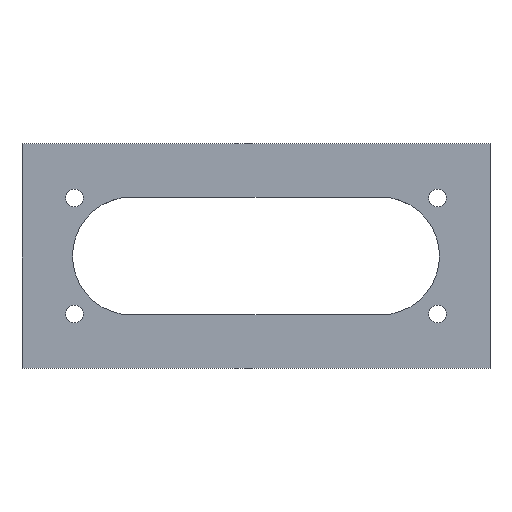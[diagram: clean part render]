
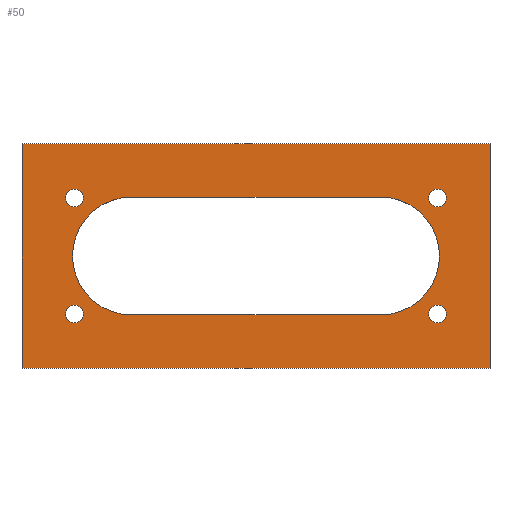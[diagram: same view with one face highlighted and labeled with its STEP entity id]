
A CAD part, top view. The second image highlights one B-rep face of the part: STEP entity #50.
In plain terms, the highlighted planar face has unit normal (0, 0, 1).
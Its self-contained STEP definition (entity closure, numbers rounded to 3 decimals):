
#50=ADVANCED_FACE('',(#109,#110,#111,#112,#113,#114),#115,.T.);
#109=FACE_BOUND('',#178,.T.);
#110=FACE_BOUND('',#179,.T.);
#111=FACE_BOUND('',#180,.T.);
#112=FACE_BOUND('',#181,.T.);
#113=FACE_BOUND('',#182,.T.);
#114=FACE_OUTER_BOUND('',#183,.T.);
#115=PLANE('',#184);
#178=EDGE_LOOP('',(#271));
#179=EDGE_LOOP('',(#272));
#180=EDGE_LOOP('',(#273));
#181=EDGE_LOOP('',(#274));
#182=EDGE_LOOP('',(#275,#276,#277,#278,#279,#280));
#183=EDGE_LOOP('',(#281,#282,#283,#284));
#184=AXIS2_PLACEMENT_3D('',#285,#286,#287);
#271=ORIENTED_EDGE('',*,*,#388,.F.);
#272=ORIENTED_EDGE('',*,*,#389,.F.);
#273=ORIENTED_EDGE('',*,*,#390,.T.);
#274=ORIENTED_EDGE('',*,*,#391,.T.);
#275=ORIENTED_EDGE('',*,*,#392,.F.);
#276=ORIENTED_EDGE('',*,*,#393,.F.);
#277=ORIENTED_EDGE('',*,*,#394,.F.);
#278=ORIENTED_EDGE('',*,*,#395,.F.);
#279=ORIENTED_EDGE('',*,*,#396,.F.);
#280=ORIENTED_EDGE('',*,*,#397,.F.);
#281=ORIENTED_EDGE('',*,*,#383,.T.);
#282=ORIENTED_EDGE('',*,*,#386,.T.);
#283=ORIENTED_EDGE('',*,*,#380,.T.);
#284=ORIENTED_EDGE('',*,*,#361,.T.);
#285=CARTESIAN_POINT('',(-125.0,-60.0,0.0));
#286=DIRECTION('',(0.0,0.0,1.0));
#287=DIRECTION('',(0.0,-1.0,0.0));
#361=EDGE_CURVE('',#415,#416,#417,.T.);
#380=EDGE_CURVE('',#450,#415,#451,.T.);
#383=EDGE_CURVE('',#416,#454,#455,.T.);
#386=EDGE_CURVE('',#454,#450,#458,.T.);
#388=EDGE_CURVE('',#460,#460,#461,.T.);
#389=EDGE_CURVE('',#462,#462,#463,.T.);
#390=EDGE_CURVE('',#464,#464,#465,.T.);
#391=EDGE_CURVE('',#466,#466,#467,.T.);
#392=EDGE_CURVE('',#468,#469,#470,.T.);
#393=EDGE_CURVE('',#471,#468,#472,.T.);
#394=EDGE_CURVE('',#473,#471,#474,.T.);
#395=EDGE_CURVE('',#475,#473,#476,.T.);
#396=EDGE_CURVE('',#477,#475,#478,.T.);
#397=EDGE_CURVE('',#469,#477,#479,.T.);
#415=VERTEX_POINT('',#497);
#416=VERTEX_POINT('',#498);
#417=LINE('',#499,#500);
#450=VERTEX_POINT('',#541);
#451=LINE('',#542,#543);
#454=VERTEX_POINT('',#547);
#455=LINE('',#548,#549);
#458=LINE('',#553,#554);
#460=VERTEX_POINT('',#556);
#461=CIRCLE('',#557,4.75);
#462=VERTEX_POINT('',#558);
#463=CIRCLE('',#559,4.75);
#464=VERTEX_POINT('',#560);
#465=CIRCLE('',#561,4.75);
#466=VERTEX_POINT('',#562);
#467=CIRCLE('',#563,4.75);
#468=VERTEX_POINT('',#564);
#469=VERTEX_POINT('',#565);
#470=CIRCLE('',#566,31.5);
#471=VERTEX_POINT('',#567);
#472=CIRCLE('',#568,31.5);
#473=VERTEX_POINT('',#569);
#474=LINE('',#570,#571);
#475=VERTEX_POINT('',#572);
#476=CIRCLE('',#573,31.5);
#477=VERTEX_POINT('',#574);
#478=CIRCLE('',#575,31.5);
#479=LINE('',#576,#577);
#497=CARTESIAN_POINT('',(125.0,60.0,0.0));
#498=CARTESIAN_POINT('',(-125.0,60.0,0.0));
#499=CARTESIAN_POINT('',(125.0,60.0,0.0));
#500=VECTOR('',#600,1.0);
#541=CARTESIAN_POINT('',(125.0,-60.0,0.0));
#542=CARTESIAN_POINT('',(125.0,-60.0,0.0));
#543=VECTOR('',#633,1.0);
#547=CARTESIAN_POINT('',(-125.0,-60.0,0.0));
#548=CARTESIAN_POINT('',(-125.0,60.0,0.0));
#549=VECTOR('',#635,1.0);
#553=CARTESIAN_POINT('',(-125.0,-60.0,0.0));
#554=VECTOR('',#637,1.0);
#556=CARTESIAN_POINT('',(92.25,31.0,0.0));
#557=AXIS2_PLACEMENT_3D('',#638,#639,#640);
#558=CARTESIAN_POINT('',(-92.25,-31.0,0.0));
#559=AXIS2_PLACEMENT_3D('',#641,#642,#643);
#560=CARTESIAN_POINT('',(92.25,-31.0,0.0));
#561=AXIS2_PLACEMENT_3D('',#644,#645,#646);
#562=CARTESIAN_POINT('',(-92.25,31.0,0.0));
#563=AXIS2_PLACEMENT_3D('',#647,#648,#649);
#564=CARTESIAN_POINT('',(-98.0,0.,0.0));
#565=CARTESIAN_POINT('',(-66.5,-31.5,0.0));
#566=AXIS2_PLACEMENT_3D('',#650,#651,#652);
#567=CARTESIAN_POINT('',(-66.5,31.5,0.0));
#568=AXIS2_PLACEMENT_3D('',#653,#654,#655);
#569=CARTESIAN_POINT('',(66.5,31.5,0.0));
#570=CARTESIAN_POINT('',(66.5,31.5,0.0));
#571=VECTOR('',#656,1.0);
#572=CARTESIAN_POINT('',(98.0,0.,0.0));
#573=AXIS2_PLACEMENT_3D('',#657,#658,#659);
#574=CARTESIAN_POINT('',(66.5,-31.5,0.0));
#575=AXIS2_PLACEMENT_3D('',#660,#661,#662);
#576=CARTESIAN_POINT('',(-66.5,-31.5,0.0));
#577=VECTOR('',#663,1.0);
#600=DIRECTION('',(-1.0,0.0,0.0));
#633=DIRECTION('',(0.0,1.0,0.0));
#635=DIRECTION('',(0.0,-1.0,0.0));
#637=DIRECTION('',(1.0,0.0,0.0));
#638=CARTESIAN_POINT('',(97.0,31.0,0.0));
#639=DIRECTION('',(0.0,0.0,1.0));
#640=DIRECTION('',(-1.0,0.0,0.0));
#641=CARTESIAN_POINT('',(-97.0,-31.0,0.0));
#642=DIRECTION('',(0.0,0.0,1.0));
#643=DIRECTION('',(1.0,0.0,0.0));
#644=CARTESIAN_POINT('',(97.0,-31.0,0.0));
#645=DIRECTION('',(0.0,0.0,-1.0));
#646=DIRECTION('',(-1.0,0.0,0.0));
#647=CARTESIAN_POINT('',(-97.0,31.0,0.0));
#648=DIRECTION('',(0.0,0.0,-1.0));
#649=DIRECTION('',(1.0,0.0,0.0));
#650=CARTESIAN_POINT('',(-66.5,0.,0.0));
#651=DIRECTION('',(0.0,0.0,1.0));
#652=DIRECTION('',(-1.0,0.,0.0));
#653=CARTESIAN_POINT('',(-66.5,0.,0.0));
#654=DIRECTION('',(0.0,-0.0,1.0));
#655=DIRECTION('',(0.0,1.0,0.0));
#656=DIRECTION('',(-1.0,0.0,0.0));
#657=CARTESIAN_POINT('',(66.5,0.,0.0));
#658=DIRECTION('',(0.0,0.0,1.0));
#659=DIRECTION('',(1.0,0.,0.0));
#660=CARTESIAN_POINT('',(66.5,0.,0.0));
#661=DIRECTION('',(0.0,0.0,1.0));
#662=DIRECTION('',(0.0,-1.0,0.0));
#663=DIRECTION('',(1.0,0.0,0.0));
